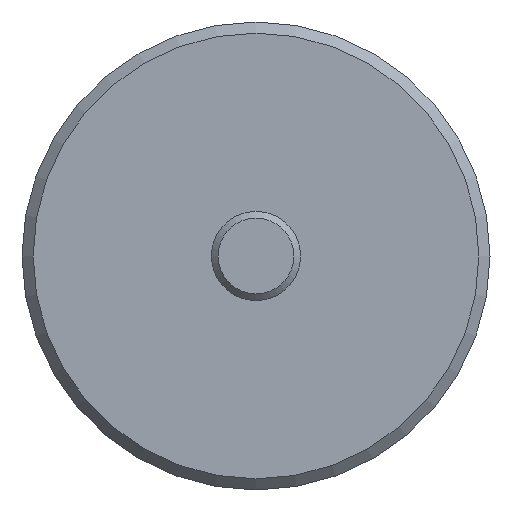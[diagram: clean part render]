
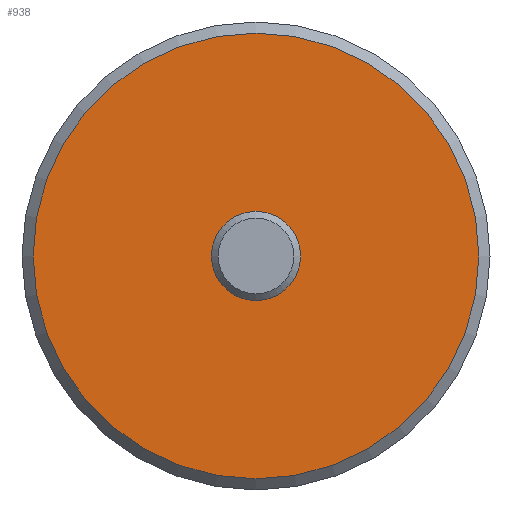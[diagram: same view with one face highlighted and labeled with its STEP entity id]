
A CAD part, left-side view. The second image highlights one B-rep face of the part: STEP entity #938.
In plain terms, the highlighted planar face has unit normal (-1, 0, 0).
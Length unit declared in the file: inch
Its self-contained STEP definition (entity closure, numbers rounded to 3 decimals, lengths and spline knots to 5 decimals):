
#39=FACE_BOUND('',#168,.T.);
#60=PLANE('',#1085);
#103=FACE_OUTER_BOUND('',#167,.T.);
#167=EDGE_LOOP('',(#748));
#168=EDGE_LOOP('',(#749,#750));
#311=CIRCLE('',#1075,0.14764);
#312=CIRCLE('',#1076,0.14764);
#315=CIRCLE('',#1081,0.7874);
#409=VERTEX_POINT('',#1641);
#410=VERTEX_POINT('',#1642);
#413=VERTEX_POINT('',#1653);
#523=EDGE_CURVE('',#409,#410,#311,.T.);
#524=EDGE_CURVE('',#410,#409,#312,.T.);
#530=EDGE_CURVE('',#413,#413,#315,.T.);
#748=ORIENTED_EDGE('',*,*,#530,.F.);
#749=ORIENTED_EDGE('',*,*,#523,.T.);
#750=ORIENTED_EDGE('',*,*,#524,.T.);
#938=ADVANCED_FACE('',(#103,#39),#60,.F.);
#1075=AXIS2_PLACEMENT_3D('',#1643,#1343,#1344);
#1076=AXIS2_PLACEMENT_3D('',#1644,#1345,#1346);
#1081=AXIS2_PLACEMENT_3D('',#1655,#1358,#1359);
#1085=AXIS2_PLACEMENT_3D('',#1662,#1367,#1368);
#1343=DIRECTION('center_axis',(1.,0.,0.));
#1344=DIRECTION('ref_axis',(0.,-1.,0.));
#1345=DIRECTION('center_axis',(1.,0.,0.));
#1346=DIRECTION('ref_axis',(0.,-1.,0.));
#1358=DIRECTION('center_axis',(1.,0.,0.));
#1359=DIRECTION('ref_axis',(0.,-1.,0.));
#1367=DIRECTION('center_axis',(1.,0.,0.));
#1368=DIRECTION('ref_axis',(0.,0.,1.));
#1641=CARTESIAN_POINT('',(-1.99853,0.13777,0.20053));
#1642=CARTESIAN_POINT('',(-1.99853,0.43304,0.20053));
#1643=CARTESIAN_POINT('Origin',(-1.99853,0.28541,0.20053));
#1644=CARTESIAN_POINT('Origin',(-1.99853,0.28541,0.20053));
#1653=CARTESIAN_POINT('',(-1.99853,1.07281,0.20053));
#1655=CARTESIAN_POINT('Origin',(-1.99853,0.28541,0.20053));
#1662=CARTESIAN_POINT('Origin',(-1.99853,0.28541,0.20053));
